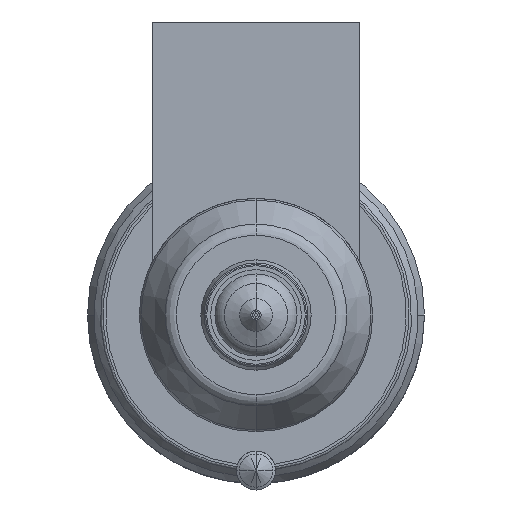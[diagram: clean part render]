
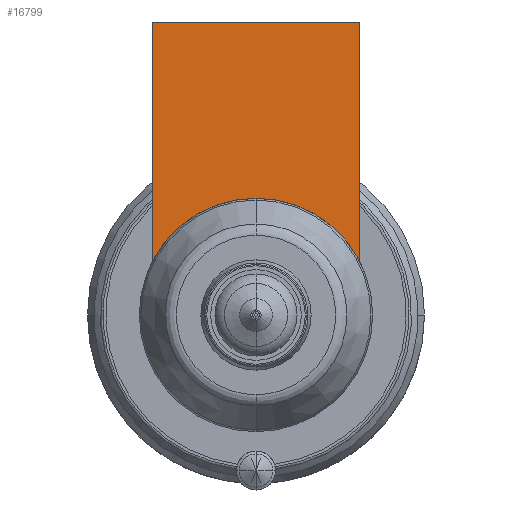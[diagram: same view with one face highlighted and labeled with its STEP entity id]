
A CAD part, front view. The second image highlights one B-rep face of the part: STEP entity #16799.
In plain terms, the highlighted planar face has unit normal (0, -1, 0).
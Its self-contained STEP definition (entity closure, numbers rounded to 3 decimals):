
#15383=DIRECTION('',(0.,0.,-1.));
#15384=VECTOR('',#15383,18.481);
#15385=CARTESIAN_POINT('',(-8.,-54.,22.604));
#15386=LINE('',#15385,#15384);
#15981=CARTESIAN_POINT('',(0.,-54.,0.));
#15982=DIRECTION('',(0.,-1.,0.));
#15983=DIRECTION('',(0.,0.,1.));
#15984=AXIS2_PLACEMENT_3D('',#15981,#15982,#15983);
#15989=DIRECTION('',(1.,0.,0.));
#15990=VECTOR('',#15989,16.);
#15991=CARTESIAN_POINT('',(-8.,-54.,22.604));
#15992=LINE('',#15991,#15990);
#15996=CARTESIAN_POINT('',(0.,-54.,0.));
#15997=DIRECTION('',(0.,-1.,0.));
#15998=DIRECTION('',(0.889,0.,0.458));
#15999=AXIS2_PLACEMENT_3D('',#15996,#15997,#15998);
#16080=DIRECTION('',(0.,0.,-1.));
#16081=VECTOR('',#16080,18.481);
#16082=CARTESIAN_POINT('',(8.,-54.,22.604));
#16083=LINE('',#16082,#16081);
#16185=CARTESIAN_POINT('',(-8.,-54.,22.604));
#16186=VERTEX_POINT('',#16185);
#16191=CARTESIAN_POINT('',(8.,-54.,22.604));
#16192=VERTEX_POINT('',#16191);
#16194=CARTESIAN_POINT('',(-8.,-54.,4.123));
#16196=VERTEX_POINT('',#16194);
#16198=CARTESIAN_POINT('',(8.,-54.,4.123));
#16200=VERTEX_POINT('',#16198);
#16201=CARTESIAN_POINT('',(0.,-54.,9.));
#16202=VERTEX_POINT('',#16201);
#16785=CARTESIAN_POINT('',(-8.,-54.,22.604));
#16786=DIRECTION('',(0.,-1.,0.));
#16787=DIRECTION('',(0.,0.,-1.));
#16788=AXIS2_PLACEMENT_3D('',#16785,#16786,#16787);
#16789=PLANE('',#16788);
#16790=ORIENTED_EDGE('',*,*,#16242,.T.);
#16791=ORIENTED_EDGE('',*,*,#16225,.F.);
#16793=ORIENTED_EDGE('',*,*,#16792,.T.);
#16795=ORIENTED_EDGE('',*,*,#16794,.T.);
#16796=ORIENTED_EDGE('',*,*,#16290,.T.);
#16797=EDGE_LOOP('',(#16790,#16791,#16793,#16795,#16796));
#16798=FACE_OUTER_BOUND('',#16797,.F.);
#16799=ADVANCED_FACE('',(#16798),#16789,.T.);
#15985=CIRCLE('',#15984,9.);
#16000=CIRCLE('',#15999,9.);
#16225=EDGE_CURVE('',#16186,#16196,#15386,.T.);
#16242=EDGE_CURVE('',#16202,#16196,#15985,.T.);
#16290=EDGE_CURVE('',#16200,#16202,#16000,.T.);
#16792=EDGE_CURVE('',#16186,#16192,#15992,.T.);
#16794=EDGE_CURVE('',#16192,#16200,#16083,.T.);
